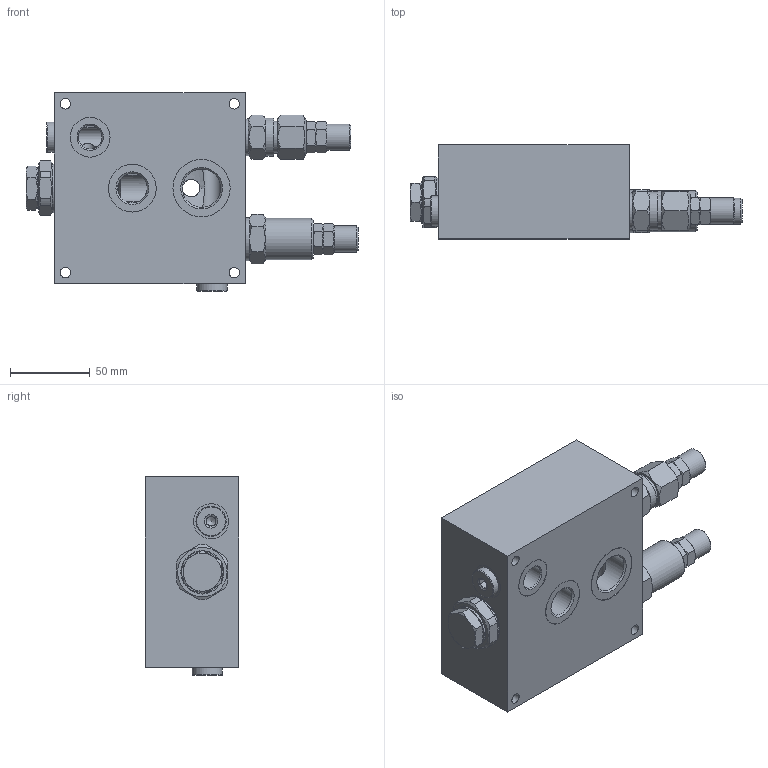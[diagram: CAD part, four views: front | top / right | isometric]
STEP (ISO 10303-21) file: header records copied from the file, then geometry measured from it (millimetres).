
FILE_DESCRIPTION(/* description */ (''),/* implementation_level */ '2;1');
FILE_NAME(/* name */ 'C:\Users\fabio.radici\Desktop\x fede\002-680-0X0_Shrinkwrap.stp',/* time_stamp */ '2021-03-30T17:40:07+02:00',/* author */ ('fabio.radici'),/* organization */ (''),/* preprocessor_version */ 'ST-DEVELOPER v18.1',/* originating_system */ 'Autodesk Inventor 2021',/* authorisation */ '');
FILE_SCHEMA (('AUTOMOTIVE_DESIGN { 1 0 10303 214 3 1 1 }'));
Length unit declared in the file: millimetre
Products named in the file (1): 002-680-0X0_Shrinkwrap
Bounding box: 208.6 x 59 x 124.8 mm (x, y, z)
Surface area: 96718 mm2 (no closed solid volume)
Topology: 0 solids, 17 shells, 305 faces, 791 edges, 507 vertices
Faces by surface type: plane 127, cone 106, cylinder 68, torus 3, sphere 1
Full cylindrical faces by diameter (mm): 4.917 x4, 6.5 x4, 7 x1, 8.5 x3, 9 x3, 10 x3, 10.5 x4, 11 x5, 11.75 x2, 14.95 x1, 16.5 x2, 18 x1, 18.631 x3, 19 x3, 20 x1, 22 x3, 23 x1, 23.5 x1, 24 x1, 24.117 x1, 25 x1, 26 x2, 27 x2, 28 x2, 30 x1, 31 x1, 32 x1, 36 x1
Entity records: 10181 total; most frequent: CARTESIAN_POINT 2864, ORIENTED_EDGE 1465, DIRECTION 1407, EDGE_CURVE 777, AXIS2_PLACEMENT_3D 585, VERTEX_POINT 507, EDGE_LOOP 365, FACE_OUTER_BOUND 305
